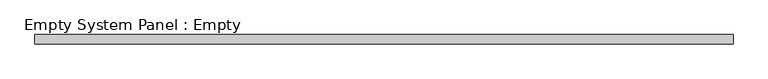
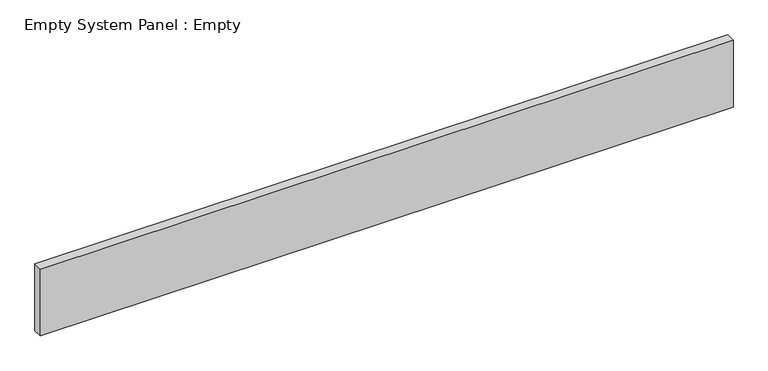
"""IFC4 building model written with IfcOpenShell, lengths in millimetres: plate geometry, Empty System Panel : Empty."""

from ifc_helpers import new_model, si_unit, origin, origin_with_axes, place, context, project, spatial, polyline, outline, extrude, source, transform, mapped, element, save


def empty_system_panel_empty_786b6551(model_context):
    return source(origin(), model_context, "Body", "SweptSolid", [
        extrude(outline(polyline([(3672.5, -50.0), (-3672.5, -50.0), (-3672.5, 50.0), (3672.5, 50.0), (3672.5, -50.0)])), origin_with_axes(), (0.0, 0.0, 1.0), 748.2),
    ])


if __name__ == "__main__":
    model = new_model("IFC4")
    model_context = context("Model", 3, world=origin())
    ifc_project = project(units=[si_unit("LENGTHUNIT", "METRE", prefix="MILLI")], contexts=[model_context])
    site = spatial("IfcSite", under=ifc_project)
    building = spatial("IfcBuilding", under=site)
    placement = place(None, origin())
    empty_system_panel_empty_shape = empty_system_panel_empty_786b6551(model_context)
    element("IfcPlate", 1, ObjectType="Empty System Panel : Empty", at=placement, inside=building, context=model_context, shape_type="MappedRepresentation", body=[
        mapped(empty_system_panel_empty_shape, transform((0.0, 0.0, 0.0), x_axis=(1.0, 0.0, 0.0), y_axis=(0.0, 1.0, 0.0), z_axis=(0.0, 0.0, 1.0))),
    ])
    save(model, "model.ifc")
